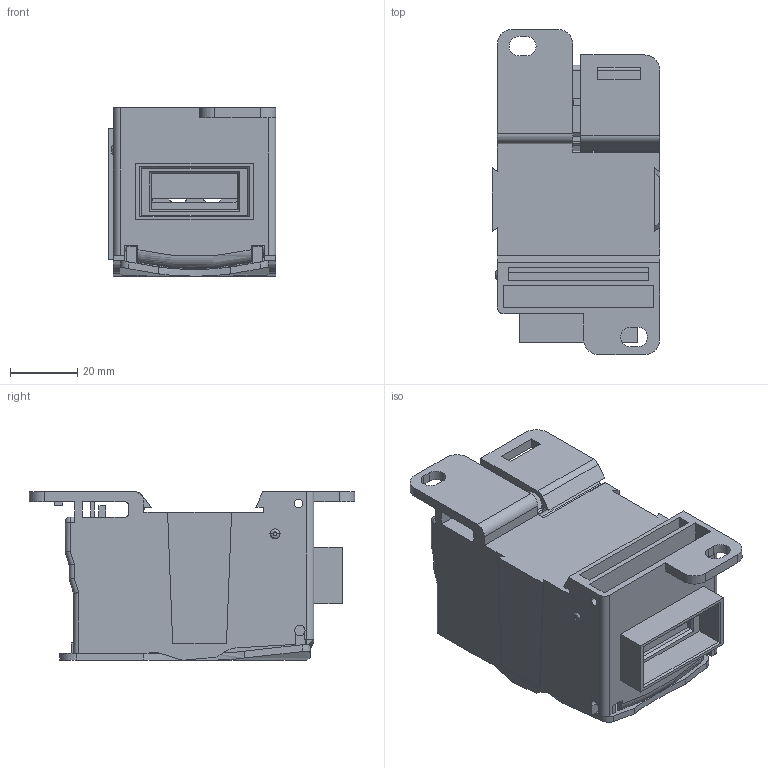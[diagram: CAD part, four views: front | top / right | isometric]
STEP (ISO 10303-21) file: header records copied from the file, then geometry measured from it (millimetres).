
FILE_DESCRIPTION(/* description */ (''),/* implementation_level */ '2;1');
FILE_NAME(/* name */ '2.stp',/* time_stamp */ '2019-06-12T23:43:26+08:00',/* author */ (''),/* organization */ (''),/* preprocessor_version */ 'ST-DEVELOPER v16.7',/* originating_system */ 'SIEMENS PLM Software NX 12.0',/* authorisation */ '');
FILE_SCHEMA (('AUTOMOTIVE_DESIGN { 1 0 10303 214 3 1 1 1 }'));
Length unit declared in the file: millimetre
Products named in the file (1): Admi32AC5160z40z
Bounding box: 49.7 x 96.6 x 50.02 mm (x, y, z)
Volume: 87142.8 mm3; surface area: 64505.5 mm2
Topology: 3 solids, 3 shells, 567 faces, 1672 edges, 1100 vertices
Faces by surface type: plane 321, cylinder 199, cone 34, bspline 10, sphere 2, torus 1
Entity records: 24146 total; most frequent: CARTESIAN_POINT 4454, ORIENTED_EDGE 3340, DIRECTION 3255, EDGE_CURVE 1670, VERTEX_POINT 1100, AXIS2_PLACEMENT_3D 1098, LINE 1059, VECTOR 1059
